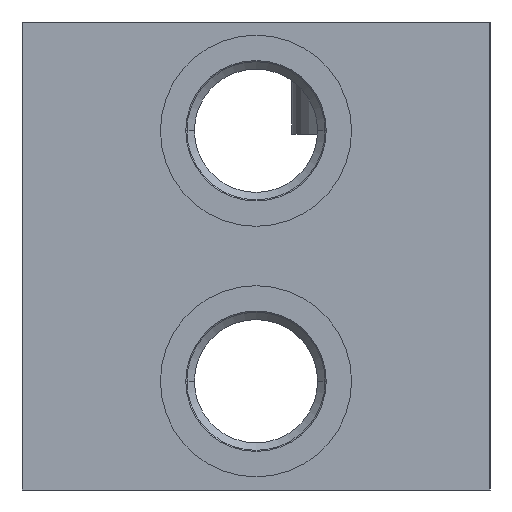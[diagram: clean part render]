
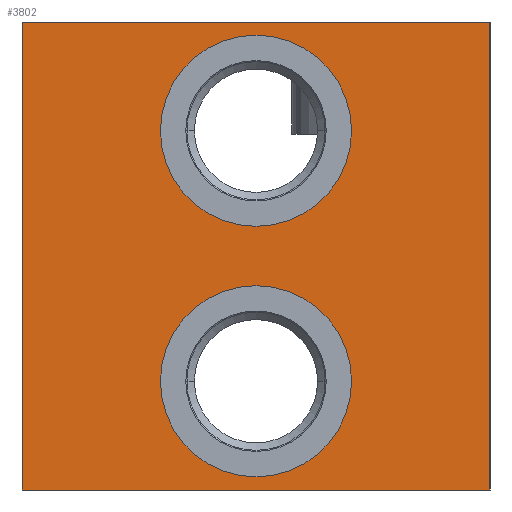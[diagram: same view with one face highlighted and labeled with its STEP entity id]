
A CAD part, left-side view. The second image highlights one B-rep face of the part: STEP entity #3802.
In plain terms, the highlighted planar face has unit normal (-1, 0, 0).
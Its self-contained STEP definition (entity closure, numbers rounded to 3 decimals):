
#30=DIRECTION('',(0.,-1.,0.));
#31=VECTOR('',#30,71.);
#32=CARTESIAN_POINT('',(0.,71.,0.));
#33=LINE('',#32,#31);
#147=DIRECTION('',(0.,0.,-1.));
#148=VECTOR('',#147,71.);
#149=CARTESIAN_POINT('',(0.,0.,0.));
#150=LINE('',#149,#148);
#598=DIRECTION('',(0.,0.,-1.));
#599=VECTOR('',#598,71.);
#600=CARTESIAN_POINT('',(0.,71.,0.));
#601=LINE('',#600,#599);
#605=CARTESIAN_POINT('',(0.,35.5,-54.5));
#606=DIRECTION('',(1.,0.,0.));
#607=DIRECTION('',(0.,-1.,0.));
#608=AXIS2_PLACEMENT_3D('',#605,#606,#607);
#613=CARTESIAN_POINT('',(0.,35.5,-54.5));
#614=DIRECTION('',(1.,0.,0.));
#615=DIRECTION('',(0.,1.,0.));
#616=AXIS2_PLACEMENT_3D('',#613,#614,#615);
#621=CARTESIAN_POINT('',(0.,35.5,-16.5));
#622=DIRECTION('',(1.,0.,0.));
#623=DIRECTION('',(0.,-1.,0.));
#624=AXIS2_PLACEMENT_3D('',#621,#622,#623);
#629=CARTESIAN_POINT('',(0.,35.5,-16.5));
#630=DIRECTION('',(1.,0.,0.));
#631=DIRECTION('',(0.,1.,0.));
#632=AXIS2_PLACEMENT_3D('',#629,#630,#631);
#658=DIRECTION('',(0.,-1.,0.));
#659=VECTOR('',#658,71.);
#660=CARTESIAN_POINT('',(0.,71.,-71.));
#661=LINE('',#660,#659);
#3121=CARTESIAN_POINT('',(0.,0.,0.));
#3123=VERTEX_POINT('',#3121);
#3127=CARTESIAN_POINT('',(0.,71.,0.));
#3128=VERTEX_POINT('',#3127);
#3129=CARTESIAN_POINT('',(0.,0.,-71.));
#3131=VERTEX_POINT('',#3129);
#3135=CARTESIAN_POINT('',(0.,71.,-71.));
#3136=VERTEX_POINT('',#3135);
#3165=CARTESIAN_POINT('',(0.,21.,-54.5));
#3166=CARTESIAN_POINT('',(0.,50.,-54.5));
#3167=VERTEX_POINT('',#3165);
#3168=VERTEX_POINT('',#3166);
#3181=CARTESIAN_POINT('',(0.,21.,-16.5));
#3182=CARTESIAN_POINT('',(0.,50.,-16.5));
#3183=VERTEX_POINT('',#3181);
#3184=VERTEX_POINT('',#3182);
#3778=CARTESIAN_POINT('',(0.,71.,0.));
#3779=DIRECTION('',(-1.,0.,0.));
#3780=DIRECTION('',(0.,-1.,0.));
#3781=AXIS2_PLACEMENT_3D('',#3778,#3779,#3780);
#3782=PLANE('',#3781);
#3783=ORIENTED_EDGE('',*,*,#3548,.T.);
#3784=ORIENTED_EDGE('',*,*,#3610,.T.);
#3786=ORIENTED_EDGE('',*,*,#3785,.F.);
#3787=ORIENTED_EDGE('',*,*,#3697,.F.);
#3788=EDGE_LOOP('',(#3783,#3784,#3786,#3787));
#3789=FACE_OUTER_BOUND('',#3788,.F.);
#3791=ORIENTED_EDGE('',*,*,#3790,.F.);
#3793=ORIENTED_EDGE('',*,*,#3792,.F.);
#3794=EDGE_LOOP('',(#3791,#3793));
#3795=FACE_BOUND('',#3794,.F.);
#3797=ORIENTED_EDGE('',*,*,#3796,.F.);
#3799=ORIENTED_EDGE('',*,*,#3798,.F.);
#3800=EDGE_LOOP('',(#3797,#3799));
#3801=FACE_BOUND('',#3800,.F.);
#609=CIRCLE('',#608,14.5);
#617=CIRCLE('',#616,14.5);
#625=CIRCLE('',#624,14.5);
#633=CIRCLE('',#632,14.5);
#3548=EDGE_CURVE('',#3128,#3123,#33,.T.);
#3610=EDGE_CURVE('',#3123,#3131,#150,.T.);
#3697=EDGE_CURVE('',#3128,#3136,#601,.T.);
#3785=EDGE_CURVE('',#3136,#3131,#661,.T.);
#3790=EDGE_CURVE('',#3167,#3168,#609,.T.);
#3792=EDGE_CURVE('',#3168,#3167,#617,.T.);
#3796=EDGE_CURVE('',#3183,#3184,#625,.T.);
#3798=EDGE_CURVE('',#3184,#3183,#633,.T.);
#3802=ADVANCED_FACE('',(#3789,#3795,#3801),#3782,.T.);
